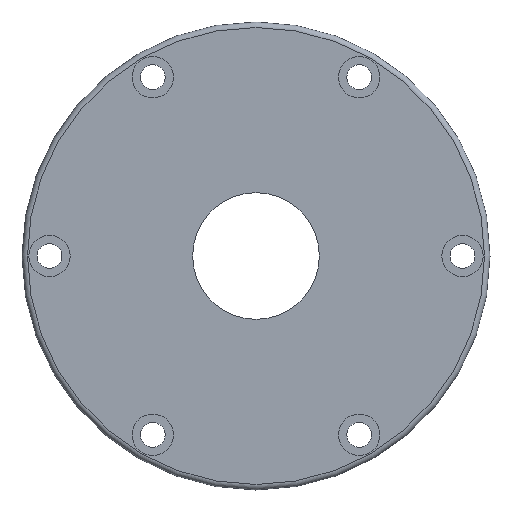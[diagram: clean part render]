
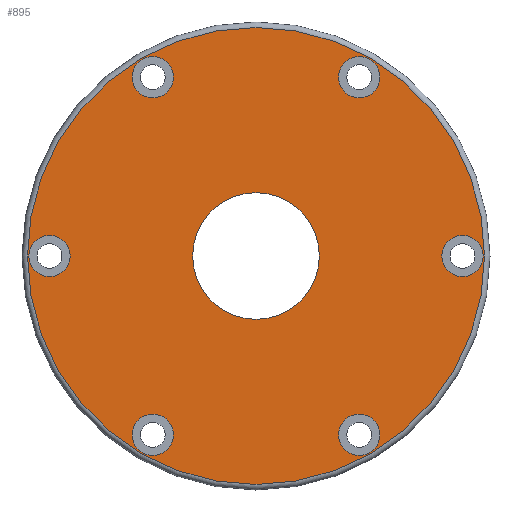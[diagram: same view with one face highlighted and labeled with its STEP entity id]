
A CAD part, left-side view. The second image highlights one B-rep face of the part: STEP entity #895.
In plain terms, the highlighted planar face has unit normal (-1, 0, 0).
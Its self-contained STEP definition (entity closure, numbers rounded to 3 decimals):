
#128=CARTESIAN_POINT('',(0.,37.5,72.452));
#129=VERTEX_POINT('',#128);
#130=CARTESIAN_POINT('',(0.,37.5,64.952));
#131=DIRECTION('',(-1.0,0.0,0.0));
#132=DIRECTION('',(0.0,0.0,1.0));
#133=AXIS2_PLACEMENT_3D('',#130,#131,#132);
#134=CIRCLE('',#133,7.5);
#135=EDGE_CURVE('',#129,#129,#134,.T.);
#184=CARTESIAN_POINT('',(0.,-37.5,72.452));
#185=VERTEX_POINT('',#184);
#186=CARTESIAN_POINT('',(0.,-37.5,64.952));
#187=DIRECTION('',(-1.0,0.0,0.0));
#188=DIRECTION('',(0.0,0.0,1.0));
#189=AXIS2_PLACEMENT_3D('',#186,#187,#188);
#190=CIRCLE('',#189,7.5);
#191=EDGE_CURVE('',#185,#185,#190,.T.);
#240=CARTESIAN_POINT('',(0.,-75.0,7.5));
#241=VERTEX_POINT('',#240);
#242=CARTESIAN_POINT('',(0.,-75.0,0.));
#243=DIRECTION('',(-1.0,0.0,0.0));
#244=DIRECTION('',(0.0,0.0,1.0));
#245=AXIS2_PLACEMENT_3D('',#242,#243,#244);
#246=CIRCLE('',#245,7.5);
#247=EDGE_CURVE('',#241,#241,#246,.T.);
#296=CARTESIAN_POINT('',(0.,-37.5,-57.452));
#297=VERTEX_POINT('',#296);
#298=CARTESIAN_POINT('',(0.,-37.5,-64.952));
#299=DIRECTION('',(-1.0,0.0,0.0));
#300=DIRECTION('',(0.0,0.0,1.0));
#301=AXIS2_PLACEMENT_3D('',#298,#299,#300);
#302=CIRCLE('',#301,7.5);
#303=EDGE_CURVE('',#297,#297,#302,.T.);
#352=CARTESIAN_POINT('',(0.,37.5,-57.452));
#353=VERTEX_POINT('',#352);
#354=CARTESIAN_POINT('',(0.,37.5,-64.952));
#355=DIRECTION('',(-1.0,0.0,0.0));
#356=DIRECTION('',(0.0,0.0,1.0));
#357=AXIS2_PLACEMENT_3D('',#354,#355,#356);
#358=CIRCLE('',#357,7.5);
#359=EDGE_CURVE('',#353,#353,#358,.T.);
#408=CARTESIAN_POINT('',(0.,75.0,7.5));
#409=VERTEX_POINT('',#408);
#410=CARTESIAN_POINT('',(0.,75.0,0.0));
#411=DIRECTION('',(-1.0,0.0,0.0));
#412=DIRECTION('',(0.0,0.0,1.0));
#413=AXIS2_PLACEMENT_3D('',#410,#411,#412);
#414=CIRCLE('',#413,7.5);
#415=EDGE_CURVE('',#409,#409,#414,.T.);
#492=CARTESIAN_POINT('',(0.,0.0,23.));
#493=VERTEX_POINT('',#492);
#494=CARTESIAN_POINT('',(0.,0.0,0.0));
#495=DIRECTION('',(-1.0,0.0,0.0));
#496=DIRECTION('',(0.0,0.0,1.0));
#497=AXIS2_PLACEMENT_3D('',#494,#495,#496);
#498=CIRCLE('',#497,23.);
#499=EDGE_CURVE('',#493,#493,#498,.T.);
#776=CARTESIAN_POINT('',(0.,0.0,83.));
#777=VERTEX_POINT('',#776);
#778=CARTESIAN_POINT('',(0.,0.0,0.0));
#779=DIRECTION('',(-1.0,0.0,0.0));
#780=DIRECTION('',(0.0,0.0,1.0));
#781=AXIS2_PLACEMENT_3D('',#778,#779,#780);
#782=CIRCLE('',#781,83.);
#783=EDGE_CURVE('',#777,#777,#782,.T.);
#866=CARTESIAN_POINT('',(0.,-23.,0.0));
#867=DIRECTION('',(-1.0,0.0,0.0));
#868=DIRECTION('',(0.0,0.0,1.0));
#869=AXIS2_PLACEMENT_3D('',#866,#867,#868);
#870=PLANE('',#869);
#871=ORIENTED_EDGE('',*,*,#783,.T.);
#872=EDGE_LOOP('',(#871));
#873=FACE_OUTER_BOUND('',#872,.T.);
#874=ORIENTED_EDGE('',*,*,#191,.F.);
#875=EDGE_LOOP('',(#874));
#876=FACE_BOUND('',#875,.T.);
#877=ORIENTED_EDGE('',*,*,#247,.F.);
#878=EDGE_LOOP('',(#877));
#879=FACE_BOUND('',#878,.T.);
#880=ORIENTED_EDGE('',*,*,#303,.F.);
#881=EDGE_LOOP('',(#880));
#882=FACE_BOUND('',#881,.T.);
#883=ORIENTED_EDGE('',*,*,#359,.F.);
#884=EDGE_LOOP('',(#883));
#885=FACE_BOUND('',#884,.T.);
#886=ORIENTED_EDGE('',*,*,#415,.F.);
#887=EDGE_LOOP('',(#886));
#888=FACE_BOUND('',#887,.T.);
#889=ORIENTED_EDGE('',*,*,#135,.F.);
#890=EDGE_LOOP('',(#889));
#891=FACE_BOUND('',#890,.T.);
#892=ORIENTED_EDGE('',*,*,#499,.F.);
#893=EDGE_LOOP('',(#892));
#894=FACE_BOUND('',#893,.T.);
#895=ADVANCED_FACE('',(#873,#876,#879,#882,#885,#888,#891,#894),#870,.T.);
